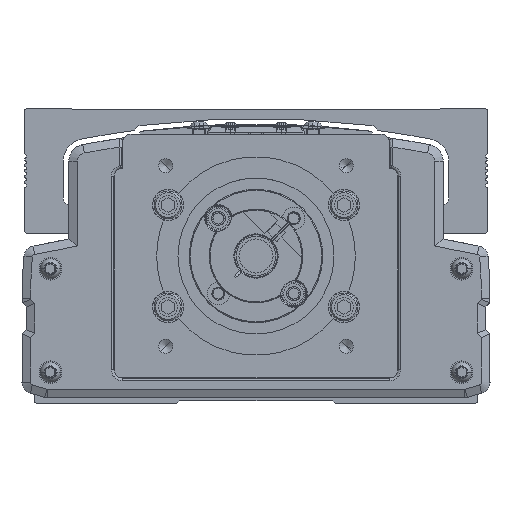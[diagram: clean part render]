
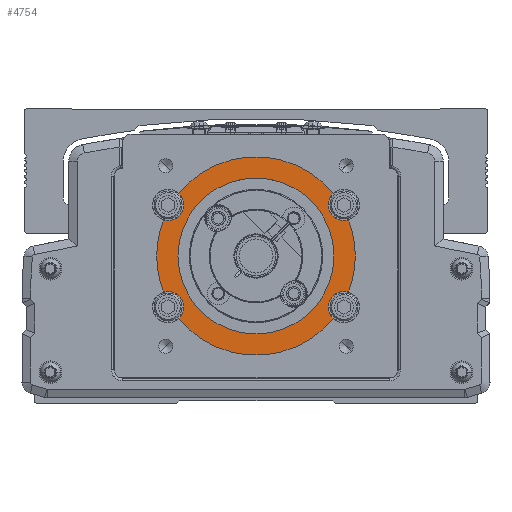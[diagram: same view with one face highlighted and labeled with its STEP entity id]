
A CAD part, front view. The second image highlights one B-rep face of the part: STEP entity #4754.
In plain terms, the highlighted planar face has unit normal (0, -1, 0).
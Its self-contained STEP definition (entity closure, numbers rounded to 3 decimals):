
#4754=ADVANCED_FACE('',(#11812,#11813),#11814,.F.);
#11812=FACE_OUTER_BOUND('',#22321,.T.);
#11813=FACE_BOUND('',#22322,.T.);
#11814=PLANE('',#22323);
#22321=EDGE_LOOP('',(#37723,#37724,#37725,#37726,#37727,#37728,#37729,#37730,#37731,#37732,#37733,#37734,#37735,#37736));
#22322=EDGE_LOOP('',(#37737,#37738));
#22323=AXIS2_PLACEMENT_3D('',#37739,#37740,#37741);
#37723=ORIENTED_EDGE('',*,*,#64495,.F.);
#37724=ORIENTED_EDGE('',*,*,#64496,.T.);
#37725=ORIENTED_EDGE('',*,*,#62054,.T.);
#37726=ORIENTED_EDGE('',*,*,#64497,.F.);
#37727=ORIENTED_EDGE('',*,*,#64498,.F.);
#37728=ORIENTED_EDGE('',*,*,#64499,.T.);
#37729=ORIENTED_EDGE('',*,*,#63843,.F.);
#37730=ORIENTED_EDGE('',*,*,#64500,.F.);
#37731=ORIENTED_EDGE('',*,*,#61626,.T.);
#37732=ORIENTED_EDGE('',*,*,#64501,.T.);
#37733=ORIENTED_EDGE('',*,*,#64502,.F.);
#37734=ORIENTED_EDGE('',*,*,#64503,.F.);
#37735=ORIENTED_EDGE('',*,*,#64504,.T.);
#37736=ORIENTED_EDGE('',*,*,#64505,.F.);
#37737=ORIENTED_EDGE('',*,*,#62230,.F.);
#37738=ORIENTED_EDGE('',*,*,#63867,.F.);
#37739=CARTESIAN_POINT('',(-600.,-296.778,0.));
#37740=DIRECTION('',(0.,1.0,0.));
#37741=DIRECTION('',(-1.0,0.,0.));
#61626=EDGE_CURVE('',#72867,#72865,#72868,.T.);
#62054=EDGE_CURVE('',#73640,#73645,#73647,.T.);
#62230=EDGE_CURVE('',#73963,#73959,#73965,.T.);
#63843=EDGE_CURVE('',#76780,#76782,#76783,.T.);
#63867=EDGE_CURVE('',#73959,#73963,#76820,.T.);
#64495=EDGE_CURVE('',#77900,#77901,#77902,.T.);
#64496=EDGE_CURVE('',#77900,#73640,#77903,.T.);
#64497=EDGE_CURVE('',#77904,#73645,#77905,.T.);
#64498=EDGE_CURVE('',#77906,#77904,#77907,.T.);
#64499=EDGE_CURVE('',#77906,#76782,#77908,.T.);
#64500=EDGE_CURVE('',#72867,#76780,#77909,.T.);
#64501=EDGE_CURVE('',#72865,#77910,#77911,.T.);
#64502=EDGE_CURVE('',#77912,#77910,#77913,.T.);
#64503=EDGE_CURVE('',#77914,#77912,#77915,.T.);
#64504=EDGE_CURVE('',#77914,#77916,#77917,.T.);
#64505=EDGE_CURVE('',#77901,#77916,#77918,.T.);
#72865=VERTEX_POINT('',#89429);
#72867=VERTEX_POINT('',#89432);
#72868=CIRCLE('',#89433,35.0);
#73640=VERTEX_POINT('',#90586);
#73645=VERTEX_POINT('',#90592);
#73647=CIRCLE('',#90595,35.0);
#73959=VERTEX_POINT('',#91038);
#73963=VERTEX_POINT('',#91043);
#73965=CIRCLE('',#91046,27.5);
#76780=VERTEX_POINT('',#95284);
#76782=VERTEX_POINT('',#95287);
#76783=CIRCLE('',#95288,5.5);
#76820=CIRCLE('',#95335,27.5);
#77900=VERTEX_POINT('',#96808);
#77901=VERTEX_POINT('',#96809);
#77902=CIRCLE('',#96810,5.5);
#77903=CIRCLE('',#96811,35.0);
#77904=VERTEX_POINT('',#96812);
#77905=CIRCLE('',#96813,5.5);
#77906=VERTEX_POINT('',#96814);
#77907=CIRCLE('',#96815,5.5);
#77908=CIRCLE('',#96816,35.0);
#77909=CIRCLE('',#96817,5.5);
#77910=VERTEX_POINT('',#96818);
#77911=CIRCLE('',#96819,35.0);
#77912=VERTEX_POINT('',#96820);
#77913=CIRCLE('',#96821,5.5);
#77914=VERTEX_POINT('',#96822);
#77915=CIRCLE('',#96823,5.5);
#77916=VERTEX_POINT('',#96824);
#77917=CIRCLE('',#96825,35.0);
#77918=CIRCLE('',#96826,5.5);
#89429=CARTESIAN_POINT('',(-565.,-296.778,0.));
#89432=CARTESIAN_POINT('',(-567.4,-296.778,-12.738));
#89433=AXIS2_PLACEMENT_3D('',#113519,#113520,#113521);
#90586=CARTESIAN_POINT('',(-635.,-296.778,0.));
#90592=CARTESIAN_POINT('',(-632.6,-296.778,-12.738));
#90595=AXIS2_PLACEMENT_3D('',#114103,#114104,#114105);
#91038=CARTESIAN_POINT('',(-627.5,-296.778,0.));
#91043=CARTESIAN_POINT('',(-572.5,-296.778,0.));
#91046=AXIS2_PLACEMENT_3D('',#114330,#114331,#114332);
#95284=CARTESIAN_POINT('',(-574.5,-296.778,-18.));
#95287=CARTESIAN_POINT('',(-572.777,-296.778,-21.998));
#95288=AXIS2_PLACEMENT_3D('',#116506,#116507,#116508);
#95335=AXIS2_PLACEMENT_3D('',#116540,#116541,#116542);
#96808=CARTESIAN_POINT('',(-632.6,-296.778,12.738));
#96809=CARTESIAN_POINT('',(-625.5,-296.778,18.));
#96810=AXIS2_PLACEMENT_3D('',#117592,#117593,#117594);
#96811=AXIS2_PLACEMENT_3D('',#117595,#117596,#117597);
#96812=CARTESIAN_POINT('',(-625.5,-296.778,-18.));
#96813=AXIS2_PLACEMENT_3D('',#117598,#117599,#117600);
#96814=CARTESIAN_POINT('',(-627.223,-296.778,-21.998));
#96815=AXIS2_PLACEMENT_3D('',#117601,#117602,#117603);
#96816=AXIS2_PLACEMENT_3D('',#117604,#117605,#117606);
#96817=AXIS2_PLACEMENT_3D('',#117607,#117608,#117609);
#96818=CARTESIAN_POINT('',(-567.4,-296.778,12.738));
#96819=AXIS2_PLACEMENT_3D('',#117610,#117611,#117612);
#96820=CARTESIAN_POINT('',(-574.5,-296.778,18.));
#96821=AXIS2_PLACEMENT_3D('',#117613,#117614,#117615);
#96822=CARTESIAN_POINT('',(-572.777,-296.778,21.998));
#96823=AXIS2_PLACEMENT_3D('',#117616,#117617,#117618);
#96824=CARTESIAN_POINT('',(-627.223,-296.778,21.998));
#96825=AXIS2_PLACEMENT_3D('',#117619,#117620,#117621);
#96826=AXIS2_PLACEMENT_3D('',#117622,#117623,#117624);
#113519=CARTESIAN_POINT('',(-600.,-296.778,0.));
#113520=DIRECTION('',(0.,-1.0,0.));
#113521=DIRECTION('',(-1.0,0.,0.));
#114103=CARTESIAN_POINT('',(-600.,-296.778,0.));
#114104=DIRECTION('',(0.,-1.0,0.));
#114105=DIRECTION('',(-1.0,0.,0.));
#114330=CARTESIAN_POINT('',(-600.,-296.778,0.));
#114331=DIRECTION('',(0.,-1.0,0.));
#114332=DIRECTION('',(-1.0,0.,0.));
#116506=CARTESIAN_POINT('',(-569.,-296.778,-18.));
#116507=DIRECTION('',(0.,-1.0,0.));
#116508=DIRECTION('',(1.0,0.,0.));
#116540=CARTESIAN_POINT('',(-600.,-296.778,0.));
#116541=DIRECTION('',(0.,-1.0,0.));
#116542=DIRECTION('',(-1.0,0.,0.));
#117592=CARTESIAN_POINT('',(-631.,-296.778,18.));
#117593=DIRECTION('',(0.,-1.0,0.));
#117594=DIRECTION('',(-1.0,0.,0.));
#117595=CARTESIAN_POINT('',(-600.,-296.778,0.));
#117596=DIRECTION('',(0.,-1.0,0.));
#117597=DIRECTION('',(-1.0,0.,0.));
#117598=CARTESIAN_POINT('',(-631.,-296.778,-18.));
#117599=DIRECTION('',(0.,-1.0,0.));
#117600=DIRECTION('',(-1.0,0.,0.));
#117601=CARTESIAN_POINT('',(-631.,-296.778,-18.));
#117602=DIRECTION('',(0.,-1.0,0.));
#117603=DIRECTION('',(-1.0,0.,0.));
#117604=CARTESIAN_POINT('',(-600.,-296.778,0.));
#117605=DIRECTION('',(0.,-1.0,0.));
#117606=DIRECTION('',(-1.0,0.,0.));
#117607=CARTESIAN_POINT('',(-569.,-296.778,-18.));
#117608=DIRECTION('',(0.,-1.0,0.));
#117609=DIRECTION('',(1.0,0.,0.));
#117610=CARTESIAN_POINT('',(-600.,-296.778,0.));
#117611=DIRECTION('',(0.,-1.0,0.));
#117612=DIRECTION('',(-1.0,0.,0.));
#117613=CARTESIAN_POINT('',(-569.,-296.778,18.));
#117614=DIRECTION('',(0.,-1.0,0.));
#117615=DIRECTION('',(1.0,0.,0.));
#117616=CARTESIAN_POINT('',(-569.,-296.778,18.));
#117617=DIRECTION('',(0.,-1.0,0.));
#117618=DIRECTION('',(1.0,0.,0.));
#117619=CARTESIAN_POINT('',(-600.,-296.778,0.));
#117620=DIRECTION('',(0.,-1.0,0.));
#117621=DIRECTION('',(-1.0,0.,0.));
#117622=CARTESIAN_POINT('',(-631.,-296.778,18.));
#117623=DIRECTION('',(0.,-1.0,0.));
#117624=DIRECTION('',(-1.0,0.,0.));
